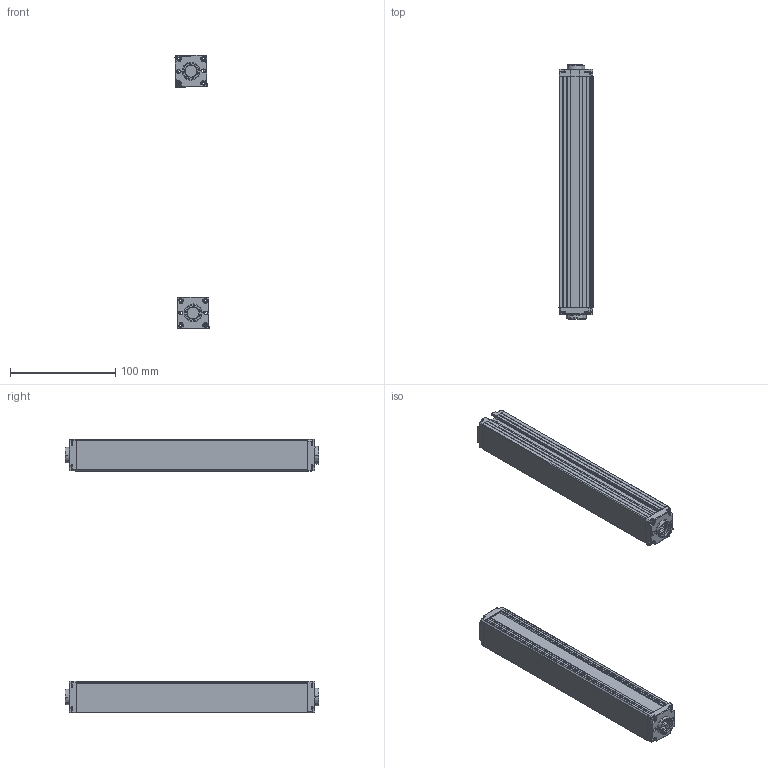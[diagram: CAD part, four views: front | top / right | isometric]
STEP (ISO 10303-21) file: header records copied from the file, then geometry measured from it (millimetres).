
FILE_DESCRIPTION (( 'STEP AP203' ), '1' );
FILE_NAME ('ZDA2010-220.STEP', '2022-08-30T03:37:19', ( 'Windows 蚚誧' ), ( 'Organization' ), 'SwSTEP 2.0', 'SolidWorks 2020', '' );
FILE_SCHEMA (( 'CONFIG_CONTROL_DESIGN' ));
Length unit declared in the file: millimetre
Products named in the file (5): 錨璃10; ZDA2010-220; 錨璃1; 錨璃8; 錨璃8 - 萵掛 (2)
Assembly tree (8 placements, depth 2):
  ZDA2010-220
    錨璃1  x2
    錨璃8  x2
    錨璃8 - 萵掛 (2)  x2
    錨璃10  x2
Bounding box: 32.36 x 241.4 x 260.35 mm (x, y, z)
Volume: 148834.6 mm3; surface area: 160120.5 mm2
Topology: 8 solids, 8 shells, 1032 faces, 2690 edges, 1668 vertices
Faces by surface type: plane 464, cylinder 310, cone 120, bspline 58, torus 48, sphere 32
Entity records: 17901 total; most frequent: CARTESIAN_POINT 4731, ORIENTED_EDGE 2666, DIRECTION 2616, EDGE_CURVE 1333, AXIS2_PLACEMENT_3D 894, VERTEX_POINT 834, VECTOR 828, LINE 828
